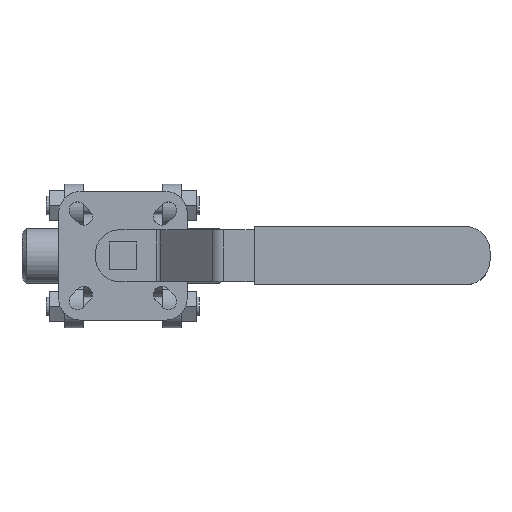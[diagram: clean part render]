
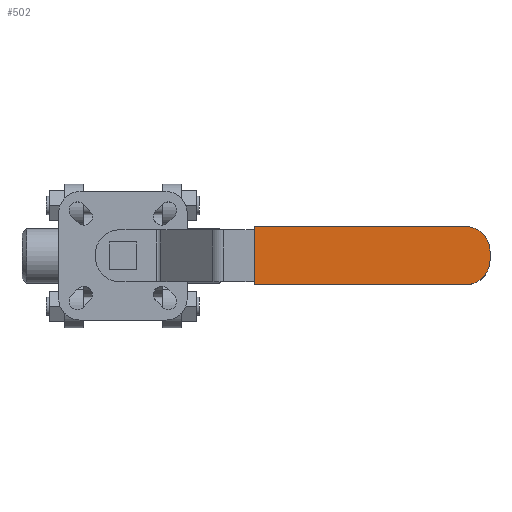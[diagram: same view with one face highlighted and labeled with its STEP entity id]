
A CAD part, top view. The second image highlights one B-rep face of the part: STEP entity #502.
In plain terms, the highlighted planar face has unit normal (0, 0, 1).
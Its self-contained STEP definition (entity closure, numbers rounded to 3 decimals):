
#502 = ADVANCED_FACE( '', ( #1204 ), #1205, .F. );
#1204 = FACE_OUTER_BOUND( '', #2869, .T. );
#1205 = PLANE( '', #2870 );
#2869 = EDGE_LOOP( '', ( #5485, #5486, #5487, #5488, #5489, #5490 ) );
#2870 = AXIS2_PLACEMENT_3D( '', #5491, #5492, #5493 );
#5485 = ORIENTED_EDGE( '', *, *, #7598, .T. );
#5486 = ORIENTED_EDGE( '', *, *, #7599, .T. );
#5487 = ORIENTED_EDGE( '', *, *, #7600, .T. );
#5488 = ORIENTED_EDGE( '', *, *, #7601, .F. );
#5489 = ORIENTED_EDGE( '', *, *, #7410, .F. );
#5490 = ORIENTED_EDGE( '', *, *, #7369, .T. );
#5491 = CARTESIAN_POINT( '', ( 120., -9.5, 23. ) );
#5492 = DIRECTION( '', ( 0., 0., -1. ) );
#5493 = DIRECTION( '', ( -1., 0., 0. ) );
#7369 = EDGE_CURVE( '', #8469, #8467, #8470, .F. );
#7410 = EDGE_CURVE( '', #8469, #8536, #8537, .T. );
#7598 = EDGE_CURVE( '', #8467, #8842, #8843, .T. );
#7599 = EDGE_CURVE( '', #8842, #8844, #8845, .F. );
#7600 = EDGE_CURVE( '', #8844, #8846, #8847, .T. );
#7601 = EDGE_CURVE( '', #8536, #8846, #8848, .T. );
#8467 = VERTEX_POINT( '', #10327 );
#8469 = VERTEX_POINT( '', #10330 );
#8470 = CIRCLE( '', #10331, 8. );
#8536 = VERTEX_POINT( '', #10543 );
#8537 = LINE( '', #10544, #10545 );
#8842 = VERTEX_POINT( '', #11527 );
#8843 = LINE( '', #11528, #11529 );
#8844 = VERTEX_POINT( '', #11530 );
#8845 = CIRCLE( '', #11531, 8. );
#8846 = VERTEX_POINT( '', #11532 );
#8847 = LINE( '', #11533, #11534 );
#8848 = LINE( '', #11535, #11536 );
#10327 = CARTESIAN_POINT( '', ( 120., -1.5, 23. ) );
#10330 = CARTESIAN_POINT( '', ( 112., -9.5, 23. ) );
#10331 = AXIS2_PLACEMENT_3D( '', #13961, #13962, #13963 );
#10543 = CARTESIAN_POINT( '', ( 42.899, -9.5, 23. ) );
#10544 = CARTESIAN_POINT( '', ( 120., -9.5, 23. ) );
#10545 = VECTOR( '', #13989, 1000. );
#11527 = CARTESIAN_POINT( '', ( 120., 1.5, 23. ) );
#11528 = CARTESIAN_POINT( '', ( 120., -9.5, 23. ) );
#11529 = VECTOR( '', #14092, 1000. );
#11530 = CARTESIAN_POINT( '', ( 112., 9.5, 23. ) );
#11531 = AXIS2_PLACEMENT_3D( '', #14093, #14094, #14095 );
#11532 = CARTESIAN_POINT( '', ( 42.899, 9.5, 23. ) );
#11533 = CARTESIAN_POINT( '', ( 120., 9.5, 23. ) );
#11534 = VECTOR( '', #14096, 1000. );
#11535 = CARTESIAN_POINT( '', ( 42.899, -9.5, 23. ) );
#11536 = VECTOR( '', #14097, 1000. );
#13961 = CARTESIAN_POINT( '', ( 112., -1.5, 23. ) );
#13962 = DIRECTION( '', ( 0., 0., -1. ) );
#13963 = DIRECTION( '', ( -1., 0., 0. ) );
#13989 = DIRECTION( '', ( -1., 0., 0. ) );
#14092 = DIRECTION( '', ( 0., 1., 0. ) );
#14093 = CARTESIAN_POINT( '', ( 112., 1.5, 23. ) );
#14094 = DIRECTION( '', ( 0., 0., -1. ) );
#14095 = DIRECTION( '', ( -1., 0., 0. ) );
#14096 = DIRECTION( '', ( -1., 0., 0. ) );
#14097 = DIRECTION( '', ( 0., 1., 0. ) );
